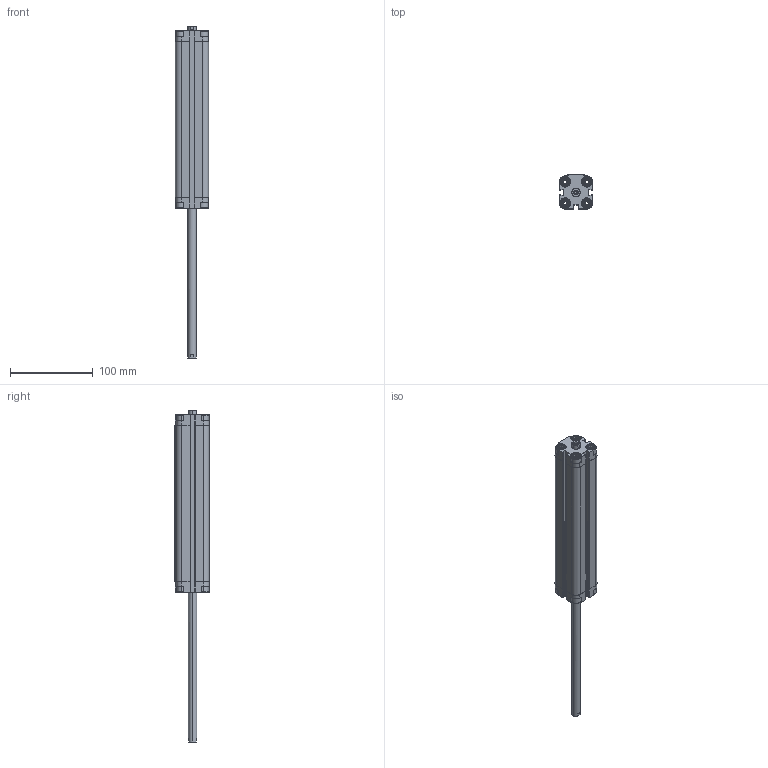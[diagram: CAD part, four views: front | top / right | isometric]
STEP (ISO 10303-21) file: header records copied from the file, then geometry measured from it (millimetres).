
FILE_DESCRIPTION (( 'STEP AP203' ), '1' );
FILE_NAME ('CDVU25-175F-P.STEP', '2020-07-24T18:11:25', ( '' ), ( '' ), 'SwSTEP 2.0', 'SolidWorks 2019', '' );
FILE_SCHEMA (( 'CONFIG_CONTROL_DESIGN' ));
Length unit declared in the file: millimetre
Products named in the file (1): CDVU25-175F-P
Bounding box: 40 x 41.5 x 400.5 mm (x, y, z)
Volume: 220037.1 mm3; surface area: 96216.2 mm2
Topology: 2 solids, 2 shells, 596 faces, 1574 edges, 1016 vertices
Faces by surface type: plane 356, cylinder 176, cone 48, torus 16
Entity records: 18577 total; most frequent: CARTESIAN_POINT 3755, ORIENTED_EDGE 3132, DIRECTION 3000, EDGE_CURVE 1566, AXIS2_PLACEMENT_3D 1029, VERTEX_POINT 1016, VECTOR 942, LINE 942
